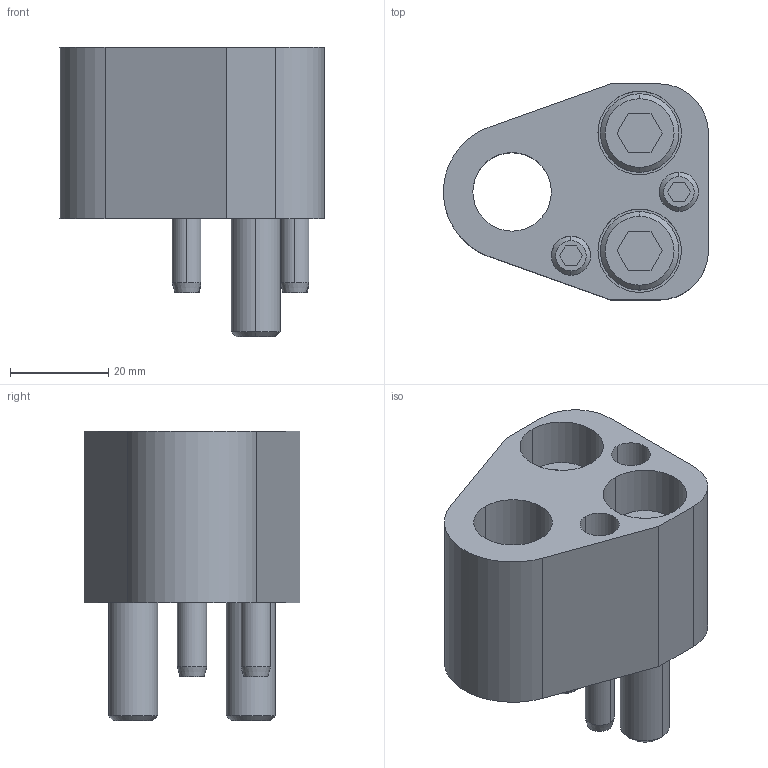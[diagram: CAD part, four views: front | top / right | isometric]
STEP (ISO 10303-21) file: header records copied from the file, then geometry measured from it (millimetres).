
FILE_DESCRIPTION(/* description */ (''),/* implementation_level */ '2;1');
FILE_NAME(/* name */ '3d_hapar16_04007_r00.stp',/* time_stamp */ '2011-01-10T14:14:57+09:00',/* author */ ('MISUMI'),/* organization */ (''),/* preprocessor_version */ 'ST-DEVELOPER v11',/* originating_system */ 'UGS - NX 5.0',/* authorisation */ '');
FILE_SCHEMA (('CONFIG_CONTROL_DESIGN'));
Length unit declared in the file: millimetre
Products named in the file (1): 3d_hapar16_04007_r00
Bounding box: 53.95 x 44 x 59 mm (x, y, z)
Volume: 55199.3 mm3; surface area: 21696.8 mm2
Topology: 7 solids, 7 shells, 135 faces, 294 edges, 188 vertices
Faces by surface type: plane 60, cylinder 49, cone 26
Entity records: 3836 total; most frequent: DIRECTION 684, CARTESIAN_POINT 672, ORIENTED_EDGE 588, EDGE_CURVE 294, AXIS2_PLACEMENT_3D 260, VERTEX_POINT 188, LINE 164, VECTOR 164
